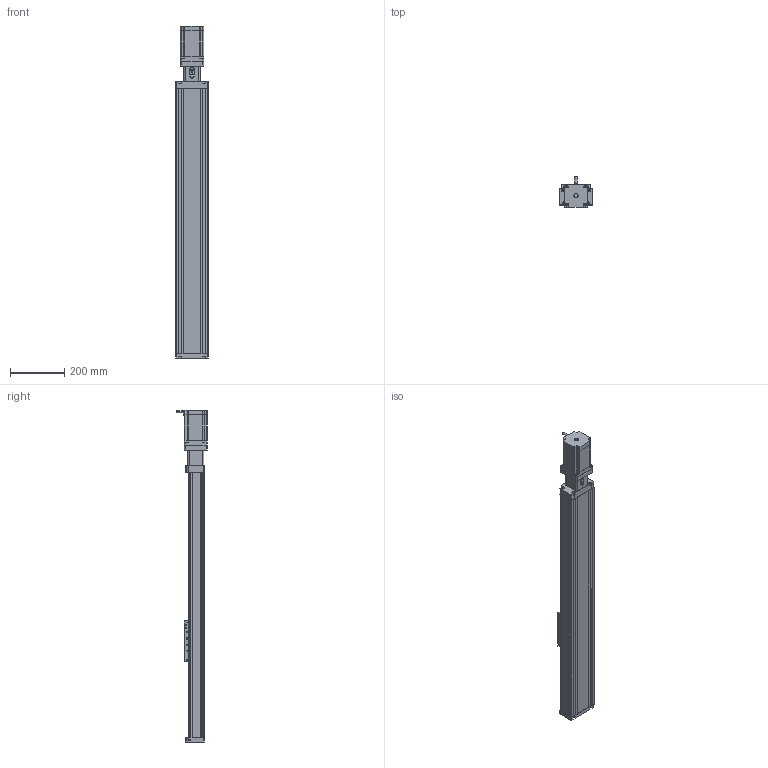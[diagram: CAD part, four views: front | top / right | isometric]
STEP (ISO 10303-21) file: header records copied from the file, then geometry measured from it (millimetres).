
FILE_DESCRIPTION (( 'STEP AP203' ), '1' );
FILE_NAME ('PCH120C7L10E800BC.STEP', '2020-09-04T05:47:42', ( '' ), ( '' ), 'SwSTEP 2.0', 'SolidWorks 2016', '' );
FILE_SCHEMA (( 'CONFIG_CONTROL_DESIGN' ));
Length unit declared in the file: millimetre
Products named in the file (25): 滅袉輸ㄗ120Sㄘ; M5x16 内六角圆柱头螺钉_M5x16; 蟀諉輸ㄗ120Sㄘ; 婦蝶謫耳8.5-70; HRH15-690_佪裝 俴最600; 裔啣ㄗ120Sㄘ; 徹蚐遠ㄗ120Sㄘ; 60萇儂徹傾釱; PCH120C7L10E800BC; 7201C 褒諉揖⑩粣創; 迍啣ㄗ120Sㄘ; M12℅1 佪裝坶踡蹟譫; FLK8-3035 繩豪薊粣ん_FLK8-3035-1014; 1610螺母 滚珠丝杆螺母; 祥凄詩湍-1000; 6000 旮僱⑩粣創; 肣杶囀噤12; FM86128SJT03 步进电机_不带刹车; 佪裝SFS16-120-746; ヶ蟀諉啣ㄗ120Sㄘ; 120臏倰第-980; HGH15CA（方） 方滑块; 徹蚐輸ㄗ120Sㄘ; 綴蟀諉啣ㄗ120Sㄘ; 萇儂蟀諉楊擘ㄗ86ㄘ
Assembly tree (34 placements, depth 2):
  PCH120C7L10E800BC
    120臏倰第-980
    HRH15-690_佪裝 俴最600  x2
    HGH15CA（方） 方滑块  x4
    蟀諉輸ㄗ120Sㄘ
    1610螺母 滚珠丝杆螺母
    M5x16 内六角圆柱头螺钉_M5x16  x4
    綴蟀諉啣ㄗ120Sㄘ
    ヶ蟀諉啣ㄗ120Sㄘ
    萇儂蟀諉楊擘ㄗ86ㄘ
    60萇儂徹傾釱
    7201C 褒諉揖⑩粣創  x2
    6000 旮僱⑩粣創
    佪裝SFS16-120-746
    肣杶囀噤12
    M12℅1 佪裝坶踡蹟譫
    迍啣ㄗ120Sㄘ
    滅袉輸ㄗ120Sㄘ  x2
    徹蚐輸ㄗ120Sㄘ  x2
    徹蚐遠ㄗ120Sㄘ
    裔啣ㄗ120Sㄘ
    FM86128SJT03 步进电机_不带刹车
    婦蝶謫耳8.5-70
    FLK8-3035 繩豪薊粣ん_FLK8-3035-1014
    祥凄詩湍-1000
Bounding box: 120 x 114 x 1227 mm (x, y, z)
Volume: 4048408.4 mm3; surface area: 1341100.6 mm2
Topology: 40 solids, 40 shells, 3080 faces, 7807 edges, 4801 vertices
Faces by surface type: plane 1213, cylinder 1061, cone 522, bspline 210, torus 54, sphere 20
Entity records: 76511 total; most frequent: CARTESIAN_POINT 19469, DIRECTION 11616, ORIENTED_EDGE 11154, EDGE_CURVE 5577, AXIS2_PLACEMENT_3D 4441, VERTEX_POINT 3500, LINE 2734, VECTOR 2734
